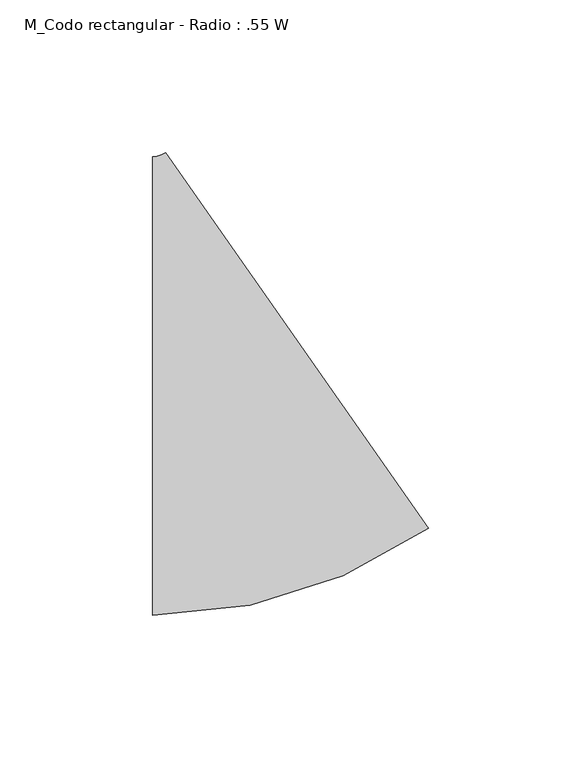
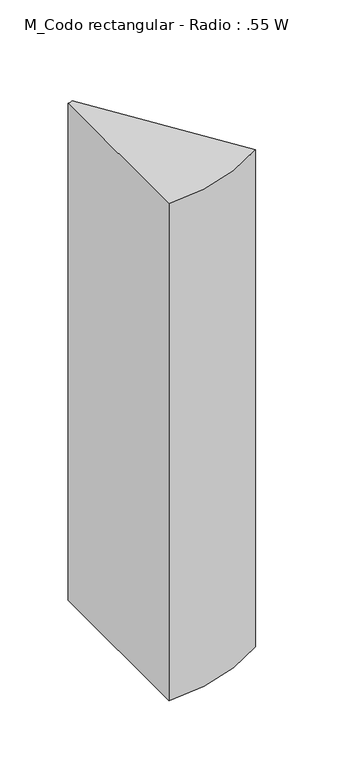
"""IFC4 building model written with IfcOpenShell, lengths in millimetres: duct fitting geometry, M_Codo rectangular - Radio : .55 W."""

from ifc_helpers import new_model, si_unit, point, frame, frame_2d, origin, place, context, project, spatial, polyline, circle_curve, trimmed, segment, composite_curve, outline, extrude, source, transform, mapped, element, save


def m_codo_rectangular_radio_55_w_e0d347b5(model_context):
    return source(origin(), model_context, "Body", "SweptSolid", [
        extrude(outline(composite_curve([segment(trimmed(circle_curve(frame_2d((-26.0121501, 82.5)), 157.5), [point((64.3261386, -46.516447))], [point((-26.0121501, -75.0))], False, "CARTESIAN"), True, "CONTINUOUS"), segment(polyline([(-26.0121501, -75.0), (-26.0121501, 75.0)]), True, "CONTINUOUS"), segment(trimmed(circle_curve(frame_2d((-26.0121501, 82.5)), 7.5), [point((-26.0121501, 75.0))], [point((-21.7103268, 76.3563597))], True, "CARTESIAN"), True, "CONTINUOUS"), segment(polyline([(-21.7103268, 76.3563597), (64.3261386, -46.516447)]), True, "CONTINUOUS")], self_intersect=False)), frame((0.0, 0.0, -225.0), z_axis=(0.0, 0.0, 1.0), x_axis=(1.0, 0.0, 0.0)), (0.0, 0.0, 1.0), 450.0),
    ])


if __name__ == "__main__":
    model = new_model("IFC4")
    model_context = context("Model", 3, world=origin())
    ifc_project = project(units=[si_unit("LENGTHUNIT", "METRE", prefix="MILLI")], contexts=[model_context])
    site = spatial("IfcSite", under=ifc_project)
    building = spatial("IfcBuilding", under=site)
    placement = place(None, origin())
    m_codo_rectangular_radio_55_w_shape = m_codo_rectangular_radio_55_w_e0d347b5(model_context)
    element("IfcDuctFitting", 1, ObjectType="M_Codo rectangular - Radio : .55 W", at=placement, inside=building, context=model_context, shape_type="MappedRepresentation", body=[
        mapped(m_codo_rectangular_radio_55_w_shape, transform((0.0, 0.0, 0.0), x_axis=(1.0, 0.0, 0.0), y_axis=(0.0, 1.0, 0.0), z_axis=(0.0, 0.0, 1.0))),
    ])
    save(model, "model.ifc")
